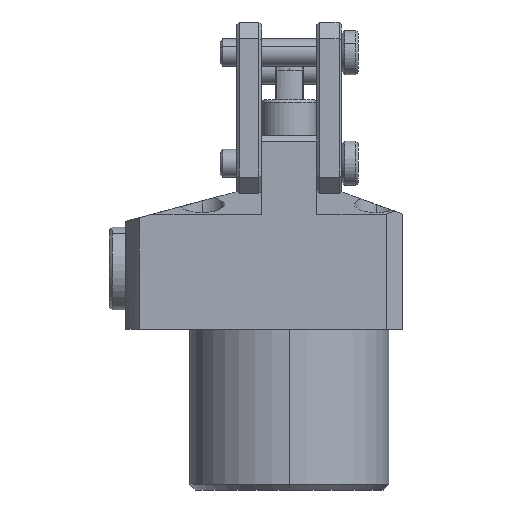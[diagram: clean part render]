
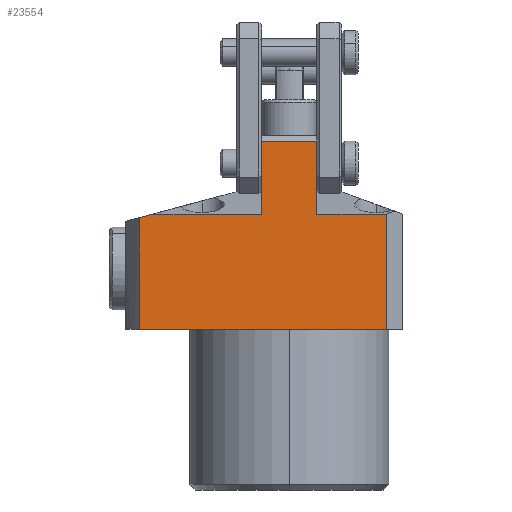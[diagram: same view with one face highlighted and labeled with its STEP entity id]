
A CAD part, left-side view. The second image highlights one B-rep face of the part: STEP entity #23554.
In plain terms, the highlighted planar face has unit normal (-1, 0, 0).
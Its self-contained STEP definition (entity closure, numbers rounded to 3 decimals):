
#10 = VECTOR ( 'NONE', #23383, 1000. ) ;
#226 = ORIENTED_EDGE ( 'NONE', *, *, #5495, .F. ) ;
#521 = DIRECTION ( 'NONE',  ( 0., 1., 0. ) ) ;
#528 = ORIENTED_EDGE ( 'NONE', *, *, #2342, .T. ) ;
#869 = VERTEX_POINT ( 'NONE', #16161 ) ;
#916 = VECTOR ( 'NONE', #14730, 1000. ) ;
#917 = VECTOR ( 'NONE', #1861, 1000. ) ;
#1286 = VECTOR ( 'NONE', #7102, 1000. ) ;
#1663 = EDGE_CURVE ( 'NONE', #12309, #10936, #8395, .T. ) ;
#1786 = CARTESIAN_POINT ( 'NONE',  ( -20.5, -20.5, 20.814 ) ) ;
#1861 = DIRECTION ( 'NONE',  ( 0., 1., 0. ) ) ;
#1975 = EDGE_CURVE ( 'NONE', #15619, #11173, #6144, .T. ) ;
#2078 = VECTOR ( 'NONE', #7446, 1000. ) ;
#2148 = LINE ( 'NONE', #8909, #20907 ) ;
#2342 = EDGE_CURVE ( 'NONE', #20108, #7880, #2148, .T. ) ;
#2364 = CARTESIAN_POINT ( 'NONE',  ( -20.5, -20.5, 20.814 ) ) ;
#2405 = CARTESIAN_POINT ( 'NONE',  ( -20.5, 29.5, 25. ) ) ;
#2911 = VECTOR ( 'NONE', #4424, 1000. ) ;
#3267 = CARTESIAN_POINT ( 'NONE',  ( -20.5, 27.125, 20.143 ) ) ;
#3310 = ORIENTED_EDGE ( 'NONE', *, *, #1663, .T. ) ;
#3577 = VECTOR ( 'NONE', #521, 1000. ) ;
#3854 = CARTESIAN_POINT ( 'NONE',  ( -20.5, -5., 7.178 ) ) ;
#4248 = DIRECTION ( 'NONE',  ( 0., 0., -1. ) ) ;
#4424 = DIRECTION ( 'NONE',  ( 0., -1., 0. ) ) ;
#5173 = EDGE_CURVE ( 'NONE', #7880, #869, #5759, .T. ) ;
#5216 = AXIS2_PLACEMENT_3D ( 'NONE', #2405, #15116, #4248 ) ;
#5296 = CARTESIAN_POINT ( 'NONE',  ( -20.5, 29.5, 34. ) ) ;
#5297 = ORIENTED_EDGE ( 'NONE', *, *, #17499, .F. ) ;
#5348 = EDGE_CURVE ( 'NONE', #17715, #20108, #21663, .T. ) ;
#5490 = ORIENTED_EDGE ( 'NONE', *, *, #5173, .T. ) ;
#5495 = EDGE_CURVE ( 'NONE', #12309, #11173, #16213, .T. ) ;
#5630 = CARTESIAN_POINT ( 'NONE',  ( -20.5, 27.125, -29. ) ) ;
#5759 = LINE ( 'NONE', #1786, #917 ) ;
#6049 = VECTOR ( 'NONE', #10407, 1000. ) ;
#6144 = LINE ( 'NONE', #5296, #1286 ) ;
#6969 = CARTESIAN_POINT ( 'NONE',  ( -20.5, 27.125, 0. ) ) ;
#7102 = DIRECTION ( 'NONE',  ( 0., 1., 0. ) ) ;
#7177 = CARTESIAN_POINT ( 'NONE',  ( -20.5, 5., 34. ) ) ;
#7446 = DIRECTION ( 'NONE',  ( 0., 0., 1. ) ) ;
#7502 = EDGE_CURVE ( 'NONE', #10936, #14336, #14504, .T. ) ;
#7880 = VERTEX_POINT ( 'NONE', #14305 ) ;
#8395 = LINE ( 'NONE', #2364, #3577 ) ;
#8909 = CARTESIAN_POINT ( 'NONE',  ( -20.5, -17.5, 25. ) ) ;
#9052 = CARTESIAN_POINT ( 'NONE',  ( -20.5, -5., 34. ) ) ;
#10407 = DIRECTION ( 'NONE',  ( 0., 0., 1. ) ) ;
#10441 = EDGE_LOOP ( 'NONE', ( #17193, #22380, #226, #3310, #13081, #5297, #22730, #528, #5490 ) ) ;
#10566 = LINE ( 'NONE', #3854, #916 ) ;
#10936 = VERTEX_POINT ( 'NONE', #11734 ) ;
#11173 = VERTEX_POINT ( 'NONE', #7177 ) ;
#11734 = CARTESIAN_POINT ( 'NONE',  ( -20.5, 24.621, 20.814 ) ) ;
#12262 = FACE_OUTER_BOUND ( 'NONE', #10441, .T. ) ;
#12302 = CARTESIAN_POINT ( 'NONE',  ( -20.5, -17.5, 0. ) ) ;
#12309 = VERTEX_POINT ( 'NONE', #20540 ) ;
#13081 = ORIENTED_EDGE ( 'NONE', *, *, #7502, .T. ) ;
#14305 = CARTESIAN_POINT ( 'NONE',  ( -20.5, -17.5, 20.814 ) ) ;
#14336 = VERTEX_POINT ( 'NONE', #3267 ) ;
#14504 = LINE ( 'NONE', #17856, #10 ) ;
#14730 = DIRECTION ( 'NONE',  ( 0., 0., 1. ) ) ;
#15116 = DIRECTION ( 'NONE',  ( 1., 0., 0. ) ) ;
#15576 = CARTESIAN_POINT ( 'NONE',  ( -20.5, 5., 7.178 ) ) ;
#15619 = VERTEX_POINT ( 'NONE', #9052 ) ;
#15962 = LINE ( 'NONE', #5630, #2078 ) ;
#16161 = CARTESIAN_POINT ( 'NONE',  ( -20.5, -5., 20.814 ) ) ;
#16213 = LINE ( 'NONE', #15576, #6049 ) ;
#16493 = DIRECTION ( 'NONE',  ( 0., 0., 1. ) ) ;
#17193 = ORIENTED_EDGE ( 'NONE', *, *, #18351, .T. ) ;
#17499 = EDGE_CURVE ( 'NONE', #17715, #14336, #15962, .T. ) ;
#17715 = VERTEX_POINT ( 'NONE', #6969 ) ;
#17856 = CARTESIAN_POINT ( 'NONE',  ( -20.5, 9., 25. ) ) ;
#18351 = EDGE_CURVE ( 'NONE', #869, #15619, #10566, .T. ) ;
#18662 = PLANE ( 'NONE',  #5216 ) ;
#20108 = VERTEX_POINT ( 'NONE', #12302 ) ;
#20540 = CARTESIAN_POINT ( 'NONE',  ( -20.5, 5., 20.814 ) ) ;
#20907 = VECTOR ( 'NONE', #16493, 1000. ) ;
#21663 = LINE ( 'NONE', #22602, #2911 ) ;
#22380 = ORIENTED_EDGE ( 'NONE', *, *, #1975, .T. ) ;
#22602 = CARTESIAN_POINT ( 'NONE',  ( -20.5, 29.5, 0. ) ) ;
#22730 = ORIENTED_EDGE ( 'NONE', *, *, #5348, .T. ) ;
#23383 = DIRECTION ( 'NONE',  ( 0., 0.966, -0.259 ) ) ;
#23554 = ADVANCED_FACE ( 'NONE', ( #12262 ), #18662, .F. ) ;
